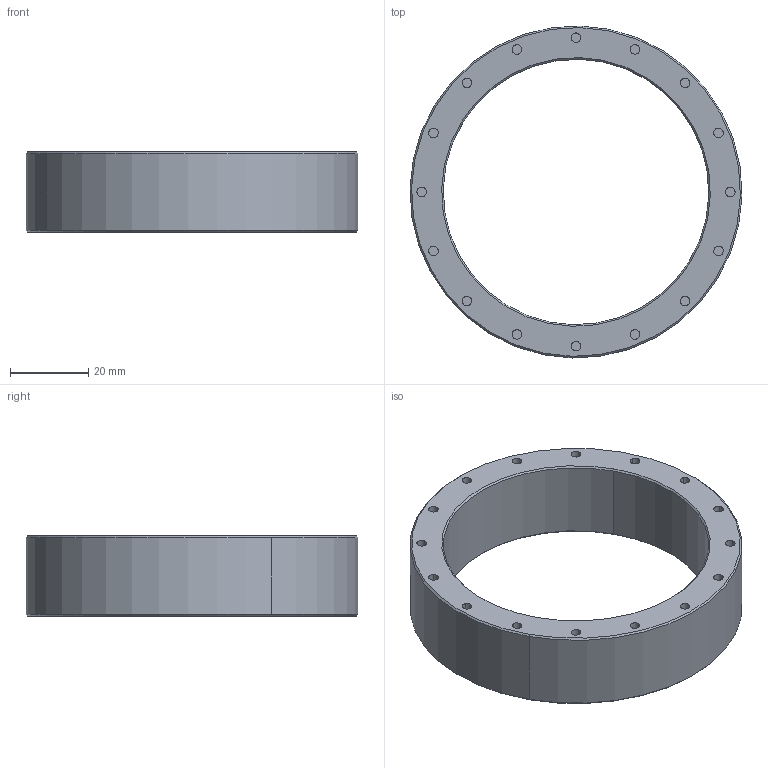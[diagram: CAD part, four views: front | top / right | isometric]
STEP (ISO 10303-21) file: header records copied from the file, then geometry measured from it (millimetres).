
FILE_DESCRIPTION(('CATIA V5 STEP Exchange'),'2;1');
FILE_NAME('C:\Users\Administrateur\Documents\Monture\Reducteur\Carter_radial.stp','2023-02-21T01:20:53+00:00',('none'),('none'),'CATIA Version 5 Release 18 GA (IN-10)','CATIA V5 STEP AP203','none');
FILE_SCHEMA(('CONFIG_CONTROL_DESIGN'));
Length unit declared in the file: millimetre
Products named in the file (1): Carter_reducteur_radial
Bounding box: 84.98 x 84.98 x 20.5 mm (x, y, z)
Volume: 38679.9 mm3; surface area: 18012.4 mm2
Topology: 1 solids, 1 shells, 110 faces, 220 edges, 144 vertices
Faces by surface type: cylinder 68, plane 34, cone 8
Entity records: 2506 total; most frequent: ORIENTED_EDGE 440, CARTESIAN_POINT 411, DIRECTION 312, EDGE_CURVE 220, AXIS2_PLACEMENT_3D 191, CIRCLE 144, EDGE_LOOP 144, VERTEX_POINT 144
